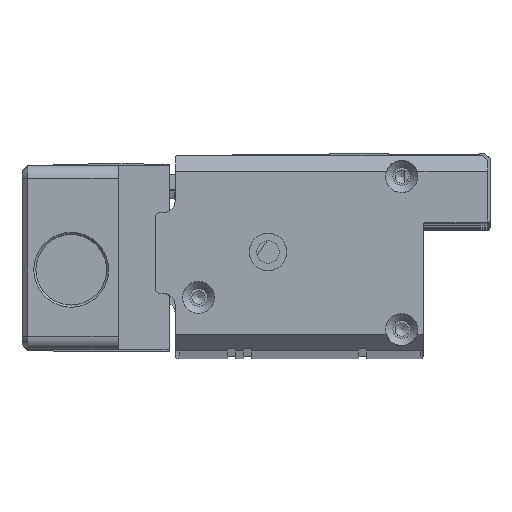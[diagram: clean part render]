
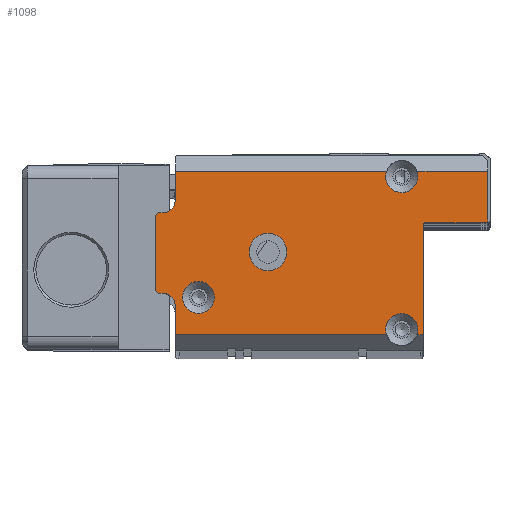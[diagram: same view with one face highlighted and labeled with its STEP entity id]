
A CAD part, top view. The second image highlights one B-rep face of the part: STEP entity #1098.
In plain terms, the highlighted planar face has unit normal (0, 0, 1).
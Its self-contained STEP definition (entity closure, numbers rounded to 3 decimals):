
#1098=ADVANCED_FACE('',(#4677,#4678,#4679),#1775,.T.);
#1775=PLANE('',#13079);
#2195=LINE('',#17979,#3435);
#2196=LINE('',#17981,#3436);
#2197=LINE('',#17985,#3437);
#2198=LINE('',#17989,#3438);
#2199=LINE('',#17991,#3439);
#2200=LINE('',#17995,#3440);
#2201=LINE('',#17997,#3441);
#2202=LINE('',#18001,#3442);
#2203=LINE('',#18005,#3443);
#2204=LINE('',#18009,#3444);
#2205=LINE('',#18013,#3445);
#2206=LINE('',#18015,#3446);
#3435=VECTOR('',#14295,1.);
#3436=VECTOR('',#14296,1.);
#3437=VECTOR('',#14299,1.);
#3438=VECTOR('',#14302,1.);
#3439=VECTOR('',#14303,1.);
#3440=VECTOR('',#14306,1.);
#3441=VECTOR('',#14307,1.);
#3442=VECTOR('',#14310,1.);
#3443=VECTOR('',#14313,1.);
#3444=VECTOR('',#14316,1.);
#3445=VECTOR('',#14319,1.);
#3446=VECTOR('',#14320,1.);
#4677=FACE_BOUND('',#4934,.T.);
#4678=FACE_BOUND('',#4935,.T.);
#4679=FACE_BOUND('',#4936,.T.);
#4934=EDGE_LOOP('',(#5756));
#4935=EDGE_LOOP('',(#5757,#5758,#5759,#5760,#5761,#5762,#5763,#5764,#5765,
#5766,#5767,#5768,#5769,#5770,#5771,#5772,#5773,#5774,#5775,#5776));
#4936=EDGE_LOOP('',(#5777));
#5756=ORIENTED_EDGE('',*,*,#10747,.T.);
#5757=ORIENTED_EDGE('',*,*,#10748,.T.);
#5758=ORIENTED_EDGE('',*,*,#10749,.T.);
#5759=ORIENTED_EDGE('',*,*,#10750,.T.);
#5760=ORIENTED_EDGE('',*,*,#10751,.T.);
#5761=ORIENTED_EDGE('',*,*,#10752,.T.);
#5762=ORIENTED_EDGE('',*,*,#10753,.T.);
#5763=ORIENTED_EDGE('',*,*,#10754,.T.);
#5764=ORIENTED_EDGE('',*,*,#10755,.T.);
#5765=ORIENTED_EDGE('',*,*,#10756,.T.);
#5766=ORIENTED_EDGE('',*,*,#10757,.T.);
#5767=ORIENTED_EDGE('',*,*,#10758,.T.);
#5768=ORIENTED_EDGE('',*,*,#10759,.T.);
#5769=ORIENTED_EDGE('',*,*,#10760,.T.);
#5770=ORIENTED_EDGE('',*,*,#10761,.T.);
#5771=ORIENTED_EDGE('',*,*,#10762,.T.);
#5772=ORIENTED_EDGE('',*,*,#10763,.T.);
#5773=ORIENTED_EDGE('',*,*,#10764,.T.);
#5774=ORIENTED_EDGE('',*,*,#10765,.T.);
#5775=ORIENTED_EDGE('',*,*,#10766,.T.);
#5776=ORIENTED_EDGE('',*,*,#10767,.T.);
#5777=ORIENTED_EDGE('',*,*,#10768,.T.);
#9476=VERTEX_POINT('',#17975);
#9477=VERTEX_POINT('',#17977);
#9478=VERTEX_POINT('',#17978);
#9479=VERTEX_POINT('',#17980);
#9480=VERTEX_POINT('',#17982);
#9481=VERTEX_POINT('',#17984);
#9482=VERTEX_POINT('',#17986);
#9483=VERTEX_POINT('',#17988);
#9484=VERTEX_POINT('',#17990);
#9485=VERTEX_POINT('',#17992);
#9486=VERTEX_POINT('',#17994);
#9487=VERTEX_POINT('',#17996);
#9488=VERTEX_POINT('',#17998);
#9489=VERTEX_POINT('',#18000);
#9490=VERTEX_POINT('',#18002);
#9491=VERTEX_POINT('',#18004);
#9492=VERTEX_POINT('',#18006);
#9493=VERTEX_POINT('',#18008);
#9494=VERTEX_POINT('',#18010);
#9495=VERTEX_POINT('',#18012);
#9496=VERTEX_POINT('',#18014);
#9497=VERTEX_POINT('',#18017);
#10747=EDGE_CURVE('',#9476,#9476,#12607,.T.);
#10748=EDGE_CURVE('',#9477,#9478,#12608,.T.);
#10749=EDGE_CURVE('',#9478,#9479,#2195,.T.);
#10750=EDGE_CURVE('',#9479,#9480,#2196,.T.);
#10751=EDGE_CURVE('',#9480,#9481,#12609,.T.);
#10752=EDGE_CURVE('',#9481,#9482,#2197,.T.);
#10753=EDGE_CURVE('',#9482,#9483,#12610,.T.);
#10754=EDGE_CURVE('',#9483,#9484,#2198,.T.);
#10755=EDGE_CURVE('',#9484,#9485,#2199,.T.);
#10756=EDGE_CURVE('',#9485,#9486,#12611,.T.);
#10757=EDGE_CURVE('',#9486,#9487,#2200,.T.);
#10758=EDGE_CURVE('',#9487,#9488,#2201,.T.);
#10759=EDGE_CURVE('',#9488,#9489,#12612,.T.);
#10760=EDGE_CURVE('',#9489,#9490,#2202,.T.);
#10761=EDGE_CURVE('',#9490,#9491,#12613,.T.);
#10762=EDGE_CURVE('',#9491,#9492,#2203,.T.);
#10763=EDGE_CURVE('',#9492,#9493,#12614,.T.);
#10764=EDGE_CURVE('',#9493,#9494,#2204,.T.);
#10765=EDGE_CURVE('',#9494,#9495,#12615,.T.);
#10766=EDGE_CURVE('',#9495,#9496,#2205,.T.);
#10767=EDGE_CURVE('',#9496,#9477,#2206,.T.);
#10768=EDGE_CURVE('',#9497,#9497,#12616,.T.);
#12607=CIRCLE('',#13069,3.);
#12608=CIRCLE('',#13070,3.);
#12609=CIRCLE('',#13071,0.5);
#12610=CIRCLE('',#13072,0.5);
#12611=CIRCLE('',#13073,3.);
#12612=CIRCLE('',#13074,2.5);
#12613=CIRCLE('',#13075,0.5);
#12614=CIRCLE('',#13076,0.5);
#12615=CIRCLE('',#13077,2.5);
#12616=CIRCLE('',#13078,3.5);
#13069=AXIS2_PLACEMENT_3D('',#17974,#14291,#14292);
#13070=AXIS2_PLACEMENT_3D('',#17976,#14293,#14294);
#13071=AXIS2_PLACEMENT_3D('',#17983,#14297,#14298);
#13072=AXIS2_PLACEMENT_3D('',#17987,#14300,#14301);
#13073=AXIS2_PLACEMENT_3D('',#17993,#14304,#14305);
#13074=AXIS2_PLACEMENT_3D('',#17999,#14308,#14309);
#13075=AXIS2_PLACEMENT_3D('',#18003,#14311,#14312);
#13076=AXIS2_PLACEMENT_3D('',#18007,#14314,#14315);
#13077=AXIS2_PLACEMENT_3D('',#18011,#14317,#14318);
#13078=AXIS2_PLACEMENT_3D('',#18016,#14321,#14322);
#13079=AXIS2_PLACEMENT_3D('',#18018,#14323,#14324);
#14291=DIRECTION('',(0.,0.,-1.));
#14292=DIRECTION('',(-1.,0.,0.));
#14293=DIRECTION('',(0.,0.,-1.));
#14294=DIRECTION('',(-1.,0.,0.));
#14295=DIRECTION('',(1.,0.,0.));
#14296=DIRECTION('',(0.,1.,0.));
#14297=DIRECTION('',(0.,0.,-1.));
#14298=DIRECTION('',(1.,0.,0.));
#14299=DIRECTION('',(1.,0.,0.));
#14300=DIRECTION('',(0.,0.,1.));
#14301=DIRECTION('',(1.,0.,0.));
#14302=DIRECTION('',(0.,1.,0.));
#14303=DIRECTION('',(-1.,0.,0.));
#14304=DIRECTION('',(0.,0.,-1.));
#14305=DIRECTION('',(-1.,0.,0.));
#14306=DIRECTION('',(-1.,0.,0.));
#14307=DIRECTION('',(0.,-1.,0.));
#14308=DIRECTION('',(0.,0.,-1.));
#14309=DIRECTION('',(1.,0.,0.));
#14310=DIRECTION('',(-1.,0.,0.));
#14311=DIRECTION('',(0.,0.,1.));
#14312=DIRECTION('',(1.,0.,0.));
#14313=DIRECTION('',(0.,-1.,0.));
#14314=DIRECTION('',(0.,0.,1.));
#14315=DIRECTION('',(1.,0.,0.));
#14316=DIRECTION('',(1.,0.,0.));
#14317=DIRECTION('',(0.,0.,-1.));
#14318=DIRECTION('',(1.,0.,0.));
#14319=DIRECTION('',(0.,-1.,0.));
#14320=DIRECTION('',(1.,0.,0.));
#14321=DIRECTION('',(0.,0.,-1.));
#14322=DIRECTION('',(-1.,0.,0.));
#14323=DIRECTION('',(0.,0.,1.));
#14324=DIRECTION('',(-1.,0.,0.));
#17974=CARTESIAN_POINT('',(8.,-26.6,8.));
#17975=CARTESIAN_POINT('',(5.,-26.6,8.));
#17976=CARTESIAN_POINT('',(46.,-32.6,8.));
#17977=CARTESIAN_POINT('',(43.172,-33.6,8.));
#17978=CARTESIAN_POINT('',(48.828,-33.6,8.));
#17979=CARTESIAN_POINT('',(50.,-33.6,8.));
#17980=CARTESIAN_POINT('',(50.,-33.6,8.));
#17981=CARTESIAN_POINT('',(50.,-36.6,8.));
#17982=CARTESIAN_POINT('',(50.,-13.1,8.));
#17983=CARTESIAN_POINT('',(50.5,-13.1,8.));
#17984=CARTESIAN_POINT('',(50.5,-12.6,8.));
#17985=CARTESIAN_POINT('',(50.,-12.6,8.));
#17986=CARTESIAN_POINT('',(61.6,-12.6,8.));
#17987=CARTESIAN_POINT('',(61.6,-12.1,8.));
#17988=CARTESIAN_POINT('',(62.1,-12.1,8.));
#17989=CARTESIAN_POINT('',(62.1,-12.6,8.));
#17990=CARTESIAN_POINT('',(62.1,-3.,8.));
#17991=CARTESIAN_POINT('',(3.7,-3.,8.));
#17992=CARTESIAN_POINT('',(48.828,-3.,8.));
#17993=CARTESIAN_POINT('',(46.,-4.,8.));
#17994=CARTESIAN_POINT('',(43.172,-3.,8.));
#17995=CARTESIAN_POINT('',(3.7,-3.,8.));
#17996=CARTESIAN_POINT('',(3.7,-3.,8.));
#17997=CARTESIAN_POINT('',(3.7,0.,8.));
#17998=CARTESIAN_POINT('',(3.7,-8.3,8.));
#17999=CARTESIAN_POINT('',(1.2,-8.3,8.));
#18000=CARTESIAN_POINT('',(1.2,-10.8,8.));
#18001=CARTESIAN_POINT('',(3.7,-10.8,8.));
#18002=CARTESIAN_POINT('',(0.5,-10.8,8.));
#18003=CARTESIAN_POINT('',(0.5,-11.3,8.));
#18004=CARTESIAN_POINT('',(0.,-11.3,8.));
#18005=CARTESIAN_POINT('',(0.,-10.8,8.));
#18006=CARTESIAN_POINT('',(0.,-25.3,8.));
#18007=CARTESIAN_POINT('',(0.5,-25.3,8.));
#18008=CARTESIAN_POINT('',(0.5,-25.8,8.));
#18009=CARTESIAN_POINT('',(0.,-25.8,8.));
#18010=CARTESIAN_POINT('',(1.2,-25.8,8.));
#18011=CARTESIAN_POINT('',(1.2,-28.3,8.));
#18012=CARTESIAN_POINT('',(3.7,-28.3,8.));
#18013=CARTESIAN_POINT('',(3.7,-25.8,8.));
#18014=CARTESIAN_POINT('',(3.7,-33.6,8.));
#18015=CARTESIAN_POINT('',(50.,-33.6,8.));
#18016=CARTESIAN_POINT('',(21.,-18.1,8.));
#18017=CARTESIAN_POINT('',(17.5,-18.1,8.));
#18018=CARTESIAN_POINT('',(0.,0.,8.));
